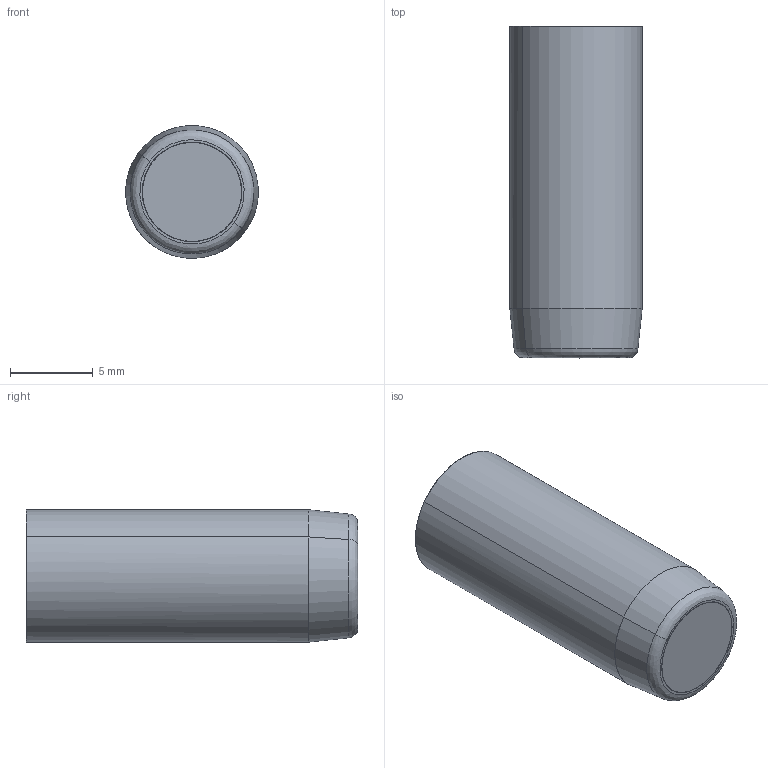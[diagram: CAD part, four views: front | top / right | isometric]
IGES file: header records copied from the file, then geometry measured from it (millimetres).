
Start section: START RECORD GO HERE.
Global section: file name: fa084705-20.igs; native system: DASSAULT SYSTEMES CATIA V5 R20 - www.3ds.com; preprocessor: CATIA Version 5 Release 20 ; author: Utente; organization: NB04-ASUS; date: 20201108.083801; units: millimetre
Bounding box: 8 x 20 x 7.99 mm (x, y, z)
Surface area: 1510.9 mm2 (no closed solid volume)
Topology: 0 solids, 0 shells, 336 faces, 1634 edges, 1627 vertices
Faces by surface type: revolution 146, plane 114, bspline 76
